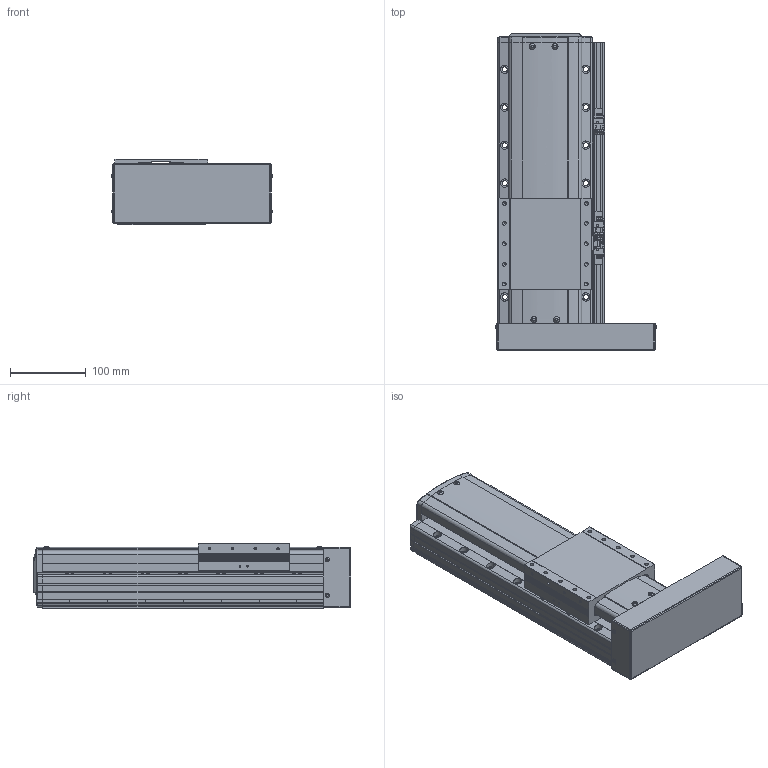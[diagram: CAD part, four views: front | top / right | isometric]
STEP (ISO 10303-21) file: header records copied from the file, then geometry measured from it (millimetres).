
FILE_DESCRIPTION(('STEP AP214'),'1');
FILE_NAME('Z:/Web/3D/PSA125/STP/PSA125-150 (3D)/PSA125ㅁㅁ-150PR+3SR.stp','2014-06-20T08:56:56',(' '),(' '),'Spatial InterOp 3D',' ',' ');
FILE_SCHEMA(('automotive_design'));
Length unit declared in the file: millimetre
Products named in the file (41): 스크루 : Round - M4.0 x 10.0; RRCV-PA120; SLIDE; BASE; FRCV-PA120-1(기준 뿔 제거); RR1500; 스크루 : Round - M4.0 x 6.0; 너트 : Square - M10.0 x 220.7419; BTCV - 60A; 스크루 : Round - M3.0 x 6.0; EE-SX674; SBK-SX674-352; M3.0 x 6.0; SRL-16x17-380L; SGD-PA95; 스크루 : Round - M3.0 x 8.0
Bounding box: 212.13 x 418.6 x 86 mm (x, y, z)
Volume: 3956119.7 mm3; surface area: 436465.9 mm2
Topology: 41 solids, 41 shells, 2395 faces, 6373 edges, 4096 vertices
Faces by surface type: plane 1403, cylinder 652, cone 220, sphere 64, bspline 31, torus 25
Entity records: 95724 total; most frequent: CARTESIAN_POINT 15561, DIRECTION 12729, ORIENTED_EDGE 12510, EDGE_CURVE 6255, LINE 4271, VECTOR 4271, AXIS2_PLACEMENT_3D 4229, VERTEX_POINT 4096
